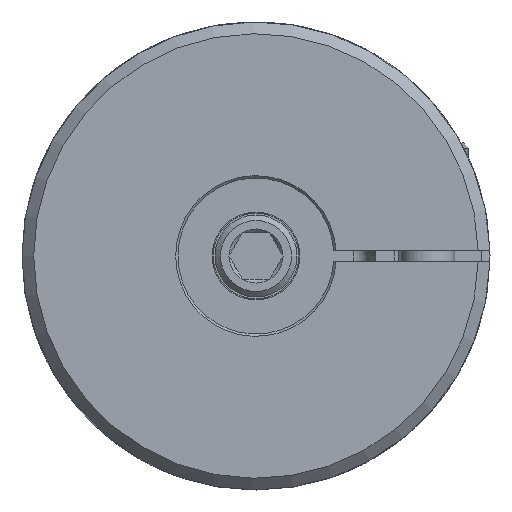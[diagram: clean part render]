
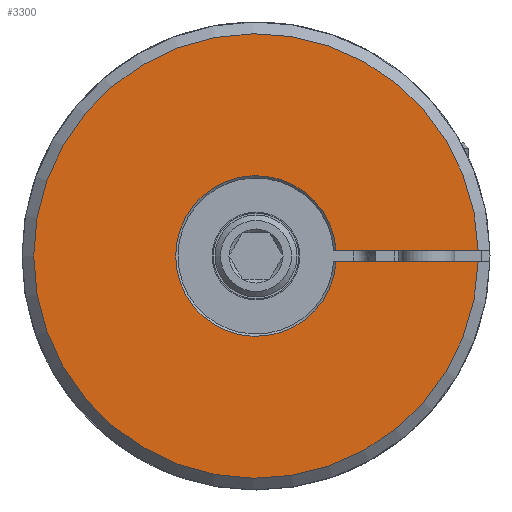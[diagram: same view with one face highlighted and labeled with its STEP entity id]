
A CAD part, left-side view. The second image highlights one B-rep face of the part: STEP entity #3300.
In plain terms, the highlighted planar face has unit normal (-1, 0, 0).
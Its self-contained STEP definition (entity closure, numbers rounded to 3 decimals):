
#138=PLANE('',#4023);
#197=CIRCLE('',#4024,57.);
#198=CIRCLE('',#4025,20.6);
#474=LINE('',#5739,#582);
#475=LINE('',#5744,#583);
#582=VECTOR('',#4553,1000.);
#583=VECTOR('',#4556,1000.);
#702=ORIENTED_EDGE('',*,*,#1712,.T.);
#703=ORIENTED_EDGE('',*,*,#1713,.F.);
#704=ORIENTED_EDGE('',*,*,#1714,.T.);
#705=ORIENTED_EDGE('',*,*,#1715,.T.);
#1712=EDGE_CURVE('',#2217,#2218,#474,.T.);
#1713=EDGE_CURVE('',#2219,#2218,#197,.T.);
#1714=EDGE_CURVE('',#2219,#2220,#475,.T.);
#1715=EDGE_CURVE('',#2220,#2217,#198,.T.);
#2217=VERTEX_POINT('',#5740);
#2218=VERTEX_POINT('',#5741);
#2219=VERTEX_POINT('',#5743);
#2220=VERTEX_POINT('',#5745);
#2655=EDGE_LOOP('',(#702,#703,#704,#705));
#2937=FACE_BOUND('',#2655,.T.);
#3300=ADVANCED_FACE('',(#2937),#138,.F.);
#4023=AXIS2_PLACEMENT_3D('',#5738,#4551,#4552);
#4024=AXIS2_PLACEMENT_3D('',#5742,#4554,#4555);
#4025=AXIS2_PLACEMENT_3D('',#5746,#4557,#4558);
#4551=DIRECTION('',(1.,0.,0.));
#4552=DIRECTION('',(0.,0.,-1.));
#4553=DIRECTION('',(0.,-1.,0.));
#4554=DIRECTION('',(1.,0.,0.));
#4555=DIRECTION('',(0.,0.,-1.));
#4556=DIRECTION('',(0.,1.,0.));
#4557=DIRECTION('',(1.,0.,0.));
#4558=DIRECTION('',(0.,0.,-1.));
#5738=CARTESIAN_POINT('',(0.,0.,0.));
#5739=CARTESIAN_POINT('',(0.,0.,1.5));
#5740=CARTESIAN_POINT('',(0.,-20.545,1.5));
#5741=CARTESIAN_POINT('',(0.,-56.98,1.5));
#5742=CARTESIAN_POINT('',(0.,0.,0.));
#5743=CARTESIAN_POINT('',(0.,-56.98,-1.5));
#5744=CARTESIAN_POINT('',(0.,-61.,-1.5));
#5745=CARTESIAN_POINT('',(0.,-20.545,-1.5));
#5746=CARTESIAN_POINT('',(0.,0.,0.));
